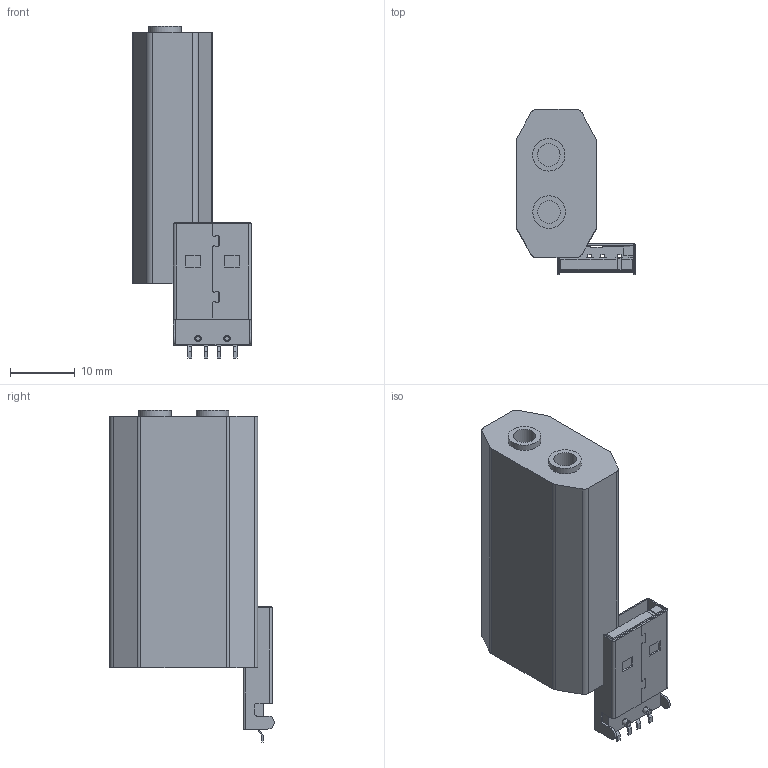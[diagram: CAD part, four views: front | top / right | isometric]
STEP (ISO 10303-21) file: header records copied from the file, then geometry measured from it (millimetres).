
FILE_DESCRIPTION(/* description */ ('Alibre Inc.'),/* implementation_level */ '2;1');
FILE_NAME(/* name */ 'export0',/* time_stamp */ '2013-07-09T12:14:53-06:00',/* author */ (''),/* organization */ (''),/* preprocessor_version */ 'ST-DEVELOPER v14',/* originating_system */ 'Alibre',/* authorisation */ '');
FILE_SCHEMA (('ALIBRE_SCHEMA','CONFIG_CONTROL_DESIGN'));
Length unit declared in the file: centimetre
Products named in the file (3): ID_1; 480372100
Bounding box: 18.3 x 25.35 x 51.1 mm (x, y, z)
Volume: 10054.9 mm3; surface area: 5324 mm2
Topology: 2 solids, 2 shells, 339 faces, 943 edges, 610 vertices
Faces by surface type: plane 255, cylinder 68, cone 8, torus 4, bspline 4
Full cylindrical faces by diameter (mm): 3.5 x2, 5 x2
Entity records: 23093 total; most frequent: CARTESIAN_POINT 4075, ORIENTED_EDGE 3612, DIRECTION 2963, EDGE_CURVE 1806, VECTOR 1574, LINE 1540, VERTEX_POINT 1172, AXIS2_PLACEMENT_3D 943
